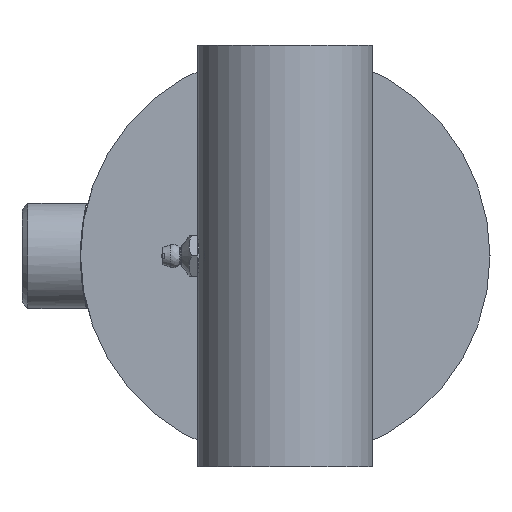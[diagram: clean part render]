
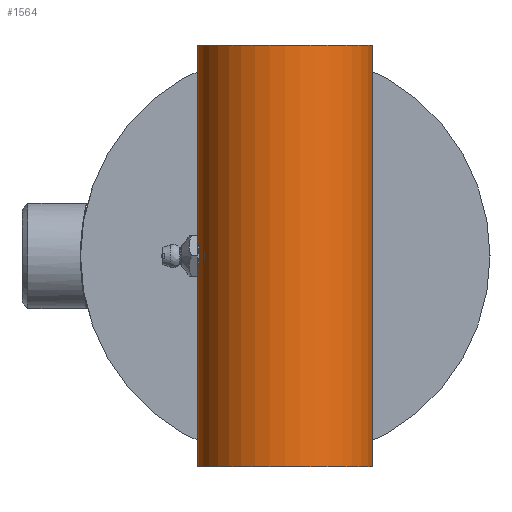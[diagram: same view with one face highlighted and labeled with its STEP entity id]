
A CAD part, left-side view. The second image highlights one B-rep face of the part: STEP entity #1564.
In plain terms, the highlighted cylindrical face has radius 23.812 mm (diameter 47.625 mm), a full revolution.
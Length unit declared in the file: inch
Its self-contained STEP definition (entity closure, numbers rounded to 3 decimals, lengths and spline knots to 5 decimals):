
#1399=CARTESIAN_POINT('',(0.,0.9375,-0.174));
#1400=VERTEX_POINT('',#1399);
#1401=CARTESIAN_POINT('',(0.,0.9375,0.174));
#1402=VERTEX_POINT('',#1401);
#1403=CARTESIAN_POINT('',(0.,0.9375,-0.174));
#1404=CARTESIAN_POINT('',(0.0219,0.9375,-0.174));
#1405=CARTESIAN_POINT('',(0.04523,0.93665,-0.16961));
#1406=CARTESIAN_POINT('',(0.08808,0.9336,-0.15184));
#1407=CARTESIAN_POINT('',(0.10762,0.93143,-0.13846));
#1408=CARTESIAN_POINT('',(0.13846,0.92735,-0.10762));
#1409=CARTESIAN_POINT('',(0.15184,0.92517,-0.08808));
#1410=CARTESIAN_POINT('',(0.16961,0.92207,-0.04523));
#1411=CARTESIAN_POINT('',(0.174,0.92121,-0.0219));
#1412=CARTESIAN_POINT('',(0.174,0.92121,0.0219));
#1413=CARTESIAN_POINT('',(0.16961,0.92207,0.04523));
#1414=CARTESIAN_POINT('',(0.15184,0.92517,0.08808));
#1415=CARTESIAN_POINT('',(0.13846,0.92735,0.10762));
#1416=CARTESIAN_POINT('',(0.10762,0.93143,0.13846));
#1417=CARTESIAN_POINT('',(0.08808,0.9336,0.15184));
#1418=CARTESIAN_POINT('',(0.04523,0.93665,0.16961));
#1419=CARTESIAN_POINT('',(0.0219,0.9375,0.174));
#1420=CARTESIAN_POINT('',(0.,0.9375,0.174));
#1421=B_SPLINE_CURVE_WITH_KNOTS('',3,(#1403,#1404,#1405,#1406,#1407,#1408,#1409,#1410,#1411,#1412,#1413,#1414,#1415,#1416,#1417,#1418,#1419,#1420),.UNSPECIFIED.,.F.,.U.,(4,2,2,2,2,2,2,2,4),(0.66759,0.83448,1.00138,1.16828,1.33518,1.50208,1.66898,1.83587,2.00277),.UNSPECIFIED.);
#1422=EDGE_CURVE('',#1400,#1402,#1421,.T.);
#1424=CARTESIAN_POINT('',(0.0,0.9375,0.174));
#1425=CARTESIAN_POINT('',(-0.0219,0.9375,0.174));
#1426=CARTESIAN_POINT('',(-0.04523,0.93665,0.16961));
#1427=CARTESIAN_POINT('',(-0.08808,0.9336,0.15184));
#1428=CARTESIAN_POINT('',(-0.10762,0.93143,0.13846));
#1429=CARTESIAN_POINT('',(-0.13846,0.92735,0.10762));
#1430=CARTESIAN_POINT('',(-0.15184,0.92517,0.08808));
#1431=CARTESIAN_POINT('',(-0.16961,0.92207,0.04523));
#1432=CARTESIAN_POINT('',(-0.174,0.92121,0.0219));
#1433=CARTESIAN_POINT('',(-0.174,0.92121,0.0));
#1434=CARTESIAN_POINT('',(-0.174,0.92121,-0.0219));
#1435=CARTESIAN_POINT('',(-0.16961,0.92207,-0.04523));
#1436=CARTESIAN_POINT('',(-0.15184,0.92517,-0.08808));
#1437=CARTESIAN_POINT('',(-0.13846,0.92735,-0.10762));
#1438=CARTESIAN_POINT('',(-0.10762,0.93143,-0.13846));
#1439=CARTESIAN_POINT('',(-0.08808,0.9336,-0.15184));
#1440=CARTESIAN_POINT('',(-0.04523,0.93665,-0.16961));
#1441=CARTESIAN_POINT('',(-0.0219,0.9375,-0.174));
#1442=CARTESIAN_POINT('',(0.0,0.9375,-0.174));
#1443=B_SPLINE_CURVE_WITH_KNOTS('',3,(#1424,#1425,#1426,#1427,#1428,#1429,#1430,#1431,#1432,#1433,#1434,#1435,#1436,#1437,#1438,#1439,#1440,#1441,#1442),.UNSPECIFIED.,.F.,.U.,(4,2,2,2,3,2,2,2,4),(2.00277,2.16966,2.33655,2.50345,2.67036,2.83726,3.00416,3.17105,3.33794),.UNSPECIFIED.);
#1444=EDGE_CURVE('',#1402,#1400,#1443,.T.);
#1526=CARTESIAN_POINT('',(0.9375,0.,-2.25));
#1527=VERTEX_POINT('',#1526);
#1528=CARTESIAN_POINT('',(0.0,0.0,-2.25));
#1529=DIRECTION('',(0.0,0.0,1.0));
#1530=DIRECTION('',(-1.0,0.0,0.0));
#1531=AXIS2_PLACEMENT_3D('',#1528,#1529,#1530);
#1532=CIRCLE('',#1531,0.9375);
#1533=EDGE_CURVE('',#1527,#1527,#1532,.T.);
#1541=CARTESIAN_POINT('',(0.0,0.0,0.0));
#1542=DIRECTION('',(0.0,0.0,1.0));
#1543=DIRECTION('',(-1.0,0.0,0.0));
#1544=AXIS2_PLACEMENT_3D('',#1541,#1542,#1543);
#1545=CYLINDRICAL_SURFACE('',#1544,0.9375);
#1546=ORIENTED_EDGE('',*,*,#1533,.T.);
#1547=EDGE_LOOP('',(#1546));
#1548=FACE_OUTER_BOUND('',#1547,.T.);
#1549=ORIENTED_EDGE('',*,*,#1422,.T.);
#1550=ORIENTED_EDGE('',*,*,#1444,.T.);
#1551=EDGE_LOOP('',(#1549,#1550));
#1552=FACE_BOUND('',#1551,.T.);
#1553=CARTESIAN_POINT('',(0.9375,0.,2.25));
#1554=VERTEX_POINT('',#1553);
#1555=CARTESIAN_POINT('',(0.0,0.0,2.25));
#1556=DIRECTION('',(0.0,0.0,-1.0));
#1557=DIRECTION('',(-1.0,0.0,0.0));
#1558=AXIS2_PLACEMENT_3D('',#1555,#1556,#1557);
#1559=CIRCLE('',#1558,0.9375);
#1560=EDGE_CURVE('',#1554,#1554,#1559,.T.);
#1561=ORIENTED_EDGE('',*,*,#1560,.T.);
#1562=EDGE_LOOP('',(#1561));
#1563=FACE_BOUND('',#1562,.T.);
#1564=ADVANCED_FACE('',(#1548,#1552,#1563),#1545,.T.);
